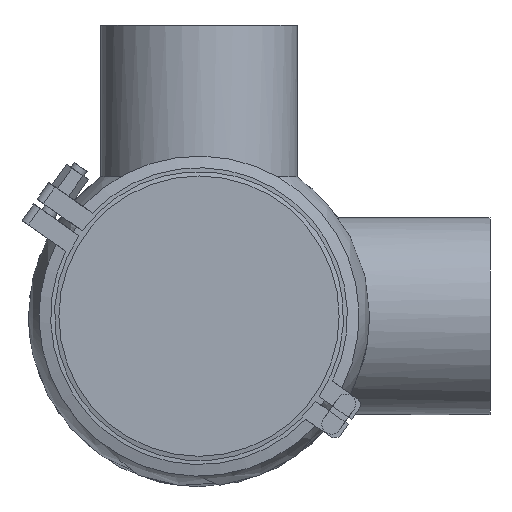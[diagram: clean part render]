
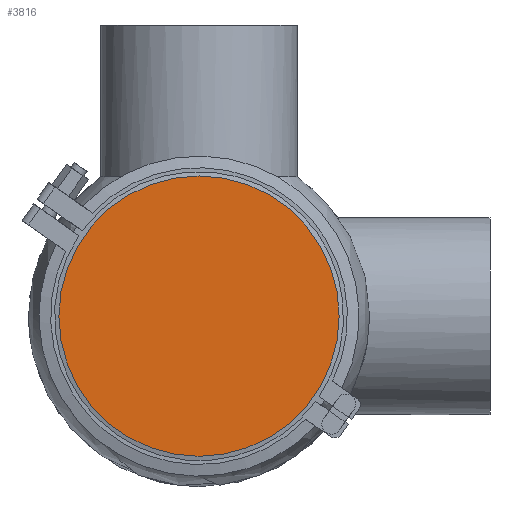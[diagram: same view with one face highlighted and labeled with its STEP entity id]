
A CAD part, front view. The second image highlights one B-rep face of the part: STEP entity #3816.
In plain terms, the highlighted planar face has unit normal (0, -1, 0).
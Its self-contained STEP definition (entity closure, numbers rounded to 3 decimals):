
#1154 = DIRECTION ( 'NONE',  ( 0., 1., 0. ) ) ;
#1442 = CARTESIAN_POINT ( 'NONE',  ( -72.25, 0., 0. ) ) ;
#1655 = DIRECTION ( 'NONE',  ( 0., 0., -1. ) ) ;
#1811 = ORIENTED_EDGE ( 'NONE', *, *, #11350, .F. ) ;
#2695 = EDGE_LOOP ( 'NONE', ( #1811 ) ) ;
#2747 = CARTESIAN_POINT ( 'NONE',  ( 0., 0., 0. ) ) ;
#3816 = ADVANCED_FACE ( 'NONE', ( #6416 ), #14762, .T. ) ;
#6416 = FACE_OUTER_BOUND ( 'NONE', #2695, .T. ) ;
#6557 = AXIS2_PLACEMENT_3D ( 'NONE', #1442, #14334, #1655 ) ;
#7633 = DIRECTION ( 'NONE',  ( 0., 0., 1. ) ) ;
#11350 = EDGE_CURVE ( 'NONE', #16352, #16352, #17951, .T. ) ;
#13159 = AXIS2_PLACEMENT_3D ( 'NONE', #2747, #1154, #7633 ) ;
#13454 = CARTESIAN_POINT ( 'NONE',  ( 0., 0., 72.25 ) ) ;
#14334 = DIRECTION ( 'NONE',  ( 0., -1., 0. ) ) ;
#14762 = PLANE ( 'NONE',  #6557 ) ;
#16352 = VERTEX_POINT ( 'NONE', #13454 ) ;
#17951 = CIRCLE ( 'NONE', #13159, 72.25 ) ;
